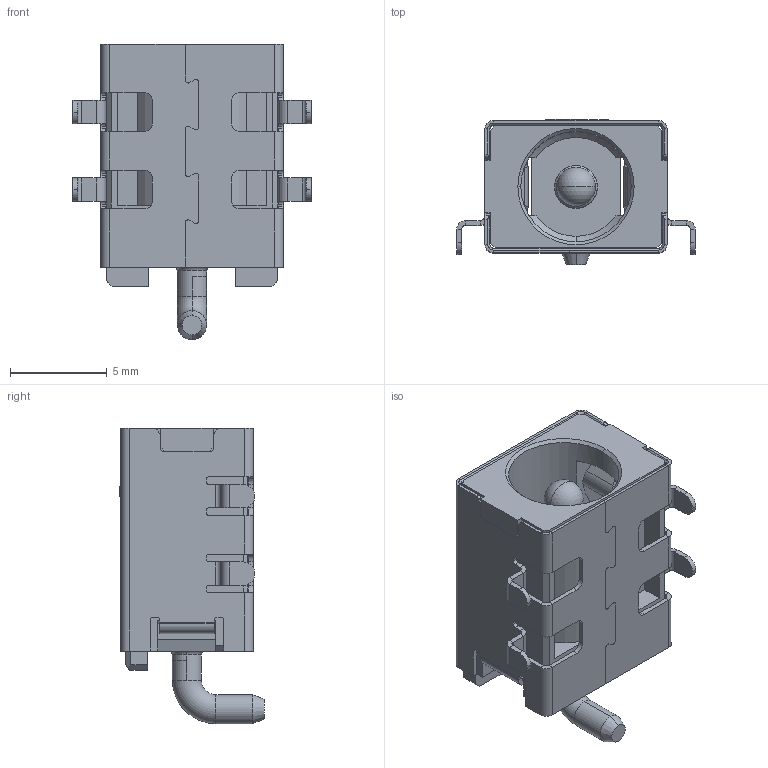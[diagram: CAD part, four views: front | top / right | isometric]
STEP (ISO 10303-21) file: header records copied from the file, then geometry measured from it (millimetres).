
FILE_DESCRIPTION (( 'STEP AP203' ), '1' );
FILE_NAME ('DC-S007B-D020-15A.stp', '2023-07-14T09:42:45', ( '' ), ( '' ), 'SwSTEP 2.0', 'SolidWorks 2023', '' );
FILE_SCHEMA (( 'CONFIG_CONTROL_DESIGN' ));
Length unit declared in the file: millimetre
Products named in the file (1): DC-S007B-D020-15A
Bounding box: 12.3 x 7.47 x 15.25 mm (x, y, z)
Volume: 410.7 mm3; surface area: 1691.8 mm2
Topology: 1 solids, 1 shells, 960 faces, 2633 edges, 1660 vertices
Faces by surface type: plane 597, cylinder 245, bspline 78, cone 34, torus 4, sphere 2
Entity records: 34167 total; most frequent: CARTESIAN_POINT 10148, ORIENTED_EDGE 5258, DIRECTION 4626, EDGE_CURVE 2629, LINE 1830, VECTOR 1830, VERTEX_POINT 1658, AXIS2_PLACEMENT_3D 1398
